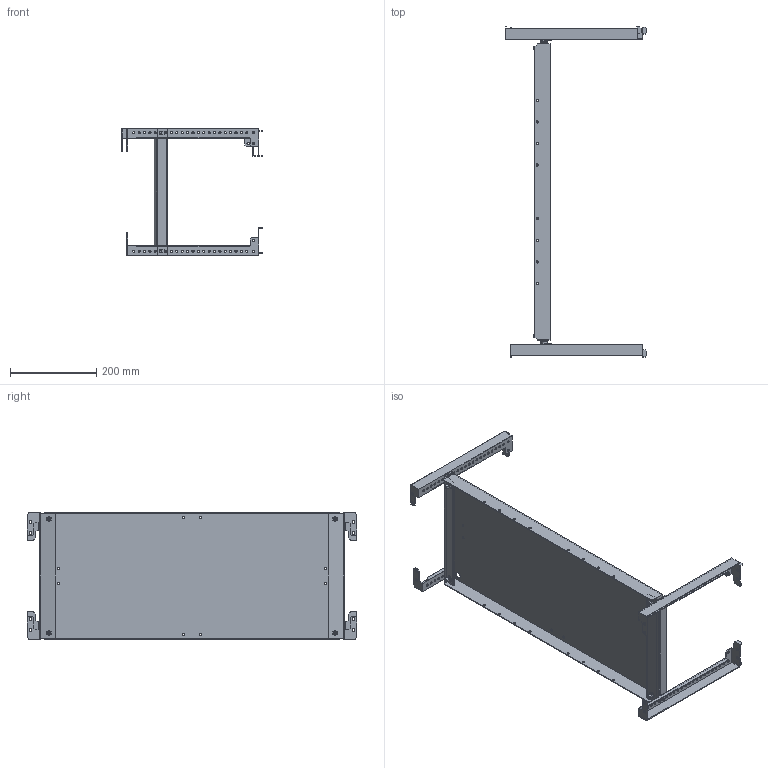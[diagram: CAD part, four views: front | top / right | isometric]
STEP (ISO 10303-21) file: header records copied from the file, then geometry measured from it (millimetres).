
FILE_DESCRIPTION (( 'STEP AP214' ), '1' );
FILE_NAME ('FO-00-MPU-030-080 Ïàíåëü ìîíòàæíàÿ óíèâåðñàëüíàÿ 300?800 ìì.STEP', '2025-07-16T07:07:45', ( '' ), ( '' ), 'SwSTEP 2.0', 'SolidWorks 2023', '' );
FILE_SCHEMA (( 'AUTOMOTIVE_DESIGN' ));
Length unit declared in the file: millimetre
Products named in the file (5): Панель монтажная универсальная 300×800; Траверса горизонтальная; Винты DIN 912 4xM6x20 300x800; Траверса горизонтальнаяD; FO-00-MPU-030-080 Панель монтажная универсальная 300×800 мм
Assembly tree (6 placements, depth 2):
  FO-00-MPU-030-080 Панель монтажная универсальная 300×800 мм
    Панель монтажная универсальная 300×800
    Винты DIN 912 4xM6x20 300x800
    Траверса горизонтальная  x2
    Траверса горизонтальнаяD  x2
Bounding box: 327 x 766 x 297 mm (x, y, z)
Volume: 797767.1 mm3; surface area: 816109.2 mm2
Topology: 9 solids, 13 shells, 1010 faces, 2744 edges, 1808 vertices
Faces by surface type: cylinder 468, plane 454, cone 56, torus 32
Entity records: 26087 total; most frequent: CARTESIAN_POINT 5387, DIRECTION 4400, ORIENTED_EDGE 4156, EDGE_CURVE 2078, AXIS2_PLACEMENT_3D 1609, VERTEX_POINT 1364, VECTOR 1182, LINE 1182
